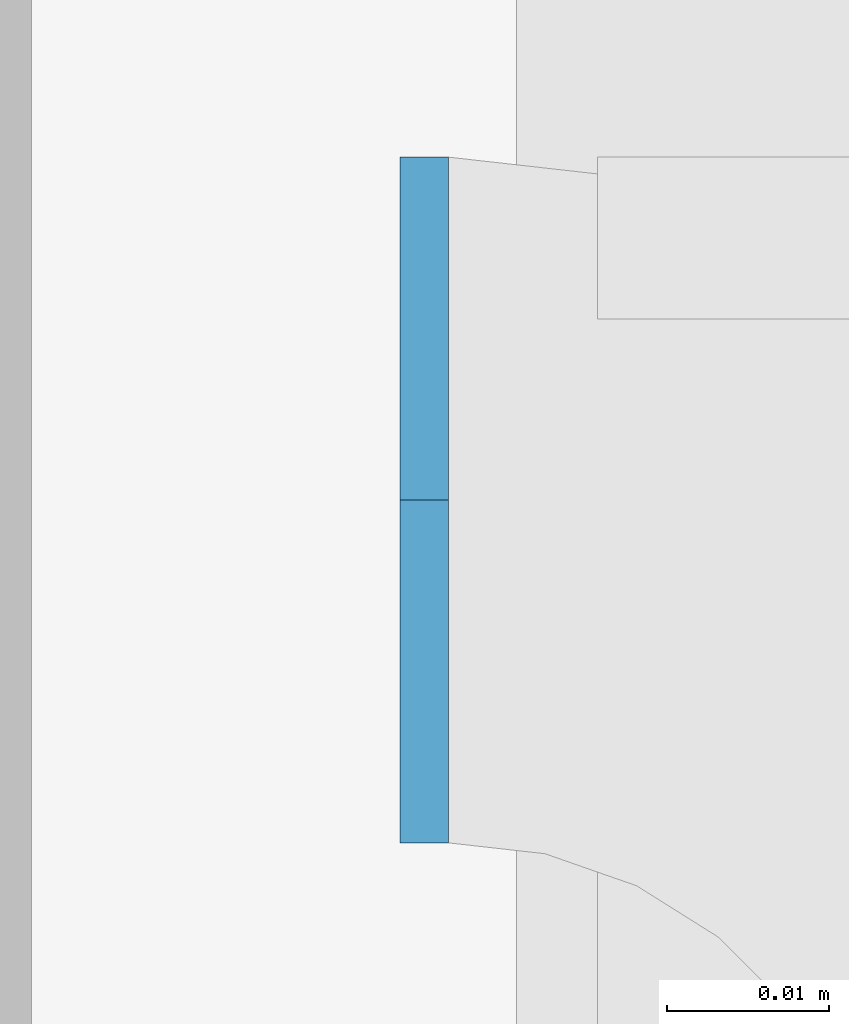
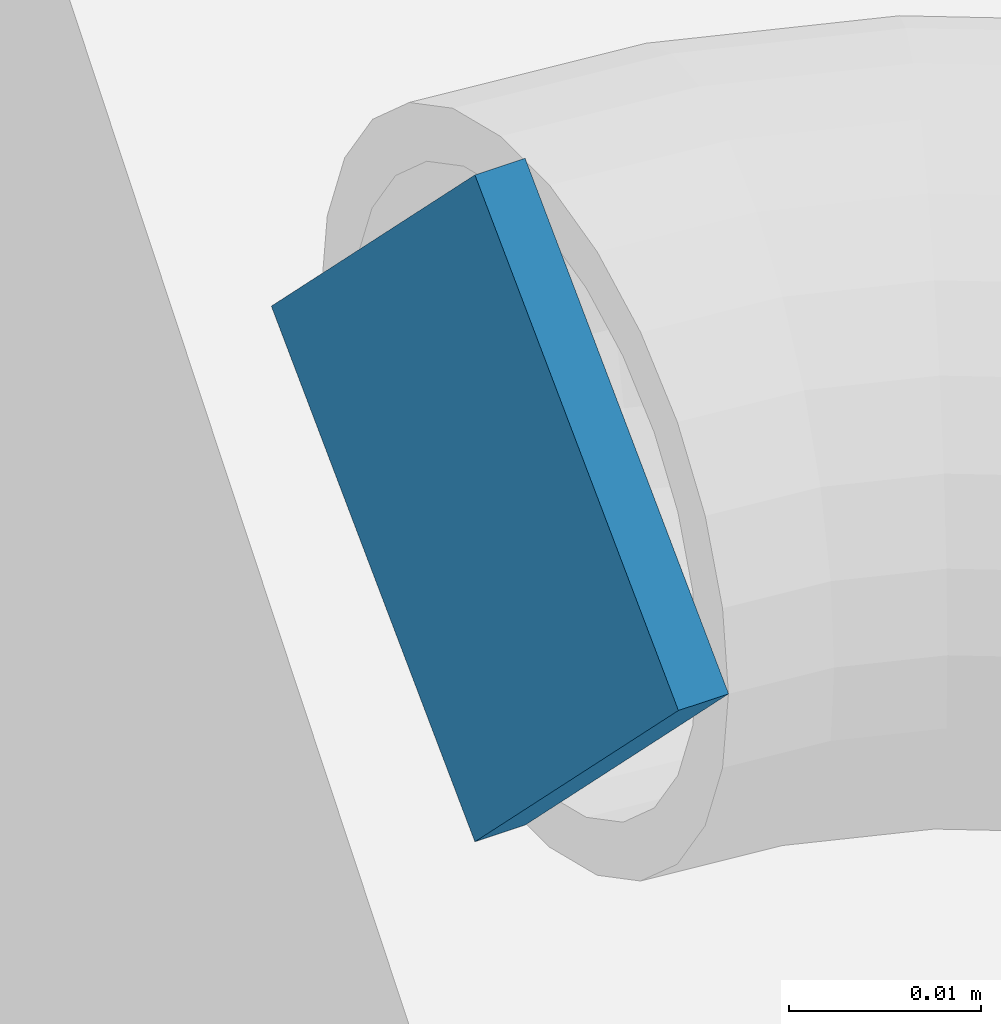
# One storey, part 221 of 825: 1 plate, 4 openings.
"""IFC2X3 building model written with IfcOpenShell, lengths in millimetres."""

from ifc_helpers import new_model, entity, si_unit, converted_unit, point, frame, frame_2d, origin, origin_with_axes, place, context, project, spatial, polyline, circle_curve, line_curve, trimmed, segment, composite_curve, outline, extrude, material, layer, layer_set, element, save


model = new_model("IFC2X3")

# Units and contexts
model_context = context("Model", 3, precision=1e-09, world=origin_with_axes())
ifc_project = project(units=[si_unit("LENGTHUNIT", "METRE", prefix="MILLI"), si_unit("AREAUNIT", "SQUARE_METRE"), si_unit("VOLUMEUNIT", "CUBIC_METRE"), converted_unit("PLANEANGLEUNIT", "DEGREE", entity("IfcPlaneAngleMeasure", 0.01745329), si_unit("PLANEANGLEUNIT", "RADIAN"), dimensions=[0, 0, 0, 0, 0, 0, 0])], contexts=[model_context])

# Site, building, storey
site_placement = place(None, origin_with_axes())
site = spatial("IfcSite", under=ifc_project, at=site_placement, Name="Cnopf'sche Kinderklinik", CompositionType="ELEMENT")
building_placement = place(site_placement, origin_with_axes())
building = spatial("IfcBuilding", under=site, at=building_placement, Name="Struktur 1", CompositionType="ELEMENT")
storey_placement = place(building_placement, origin_with_axes())
storey = spatial("IfcBuildingStorey", under=building, at=storey_placement, Name="Default Storey", CompositionType="ELEMENT", Elevation=0.0)

# Plate, openings
ifc_material = material(Name="S235JR")
ifc_layer = layer(ifc_material, 3.0)
ifc_layer_set = layer_set([ifc_layer], Name="S235JR")
plate_placement = place(None, frame((3232.513402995, 5783.18329849, 4987.000000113), z_axis=(-1.0, 0.0, 0.0), x_axis=(0.0, 0.0, 1.0)))
plate = element("IfcPlate", 1, at=plate_placement, inside=storey, material=ifc_layer_set, Name="-", ObjectType="-", context=model_context, shape_type="SweptSolid", body=[
    extrude(outline(polyline([(21.2, 0.0), (21.2, 42.4), (-21.2, 42.4), (-21.2, 0.0), (21.2, 0.0)])), origin_with_axes(), (0.0, 0.0, 1.0), 3.0),
])
opening_1_placement = place(plate_placement, frame((0.0, 0.0, -0.01), z_axis=(0.0, 0.0, 1.0), x_axis=(1.0, 0.0, 0.0)))
element("IfcOpeningElement", 2, at=opening_1_placement, cuts=plate, ObjectType="Opening", context=model_context, shape_type="SweptSolid", body=[
    extrude(outline(composite_curve([segment(trimmed(line_curve((21.2, 0.0), (0.0, 1.0), 21.2), [point((21.2, 0.0))], [point((21.2, 21.2))], True, "CARTESIAN"), True, "CONTINUOUS"), segment(trimmed(circle_curve(frame_2d((0.0, 21.2), x_axis=(-1.0, 0.0)), 21.2), [point((21.2, 21.2))], [point((0.0, 0.0))], False, "CARTESIAN"), True, "CONTINUOUS"), segment(trimmed(line_curve((0.0, 0.0), (1.0, 0.0), 21.2), [point((0.0, 0.0))], [point((21.2, 0.0))], True, "CARTESIAN"), True, "CONTINUOUS")], self_intersect=False)), origin(), (0.0, 0.0, 1.0), 3.02),
])
opening_2_placement = place(plate_placement, frame((0.0, 0.0, -0.01), z_axis=(0.0, 0.0, 1.0), x_axis=(1.0, 0.0, 0.0)))
element("IfcOpeningElement", 3, at=opening_2_placement, cuts=plate, ObjectType="Opening", context=model_context, shape_type="SweptSolid", body=[
    extrude(outline(composite_curve([segment(trimmed(line_curve((21.2, 42.4), (-1.0, 0.0), 21.2), [point((21.2, 42.4))], [point((0.0, 42.4))], True, "CARTESIAN"), True, "CONTINUOUS"), segment(trimmed(circle_curve(frame_2d((0.0, 21.2), x_axis=(-1.0, 0.0)), 21.2), [point((0.0, 42.4))], [point((21.2, 21.2))], False, "CARTESIAN"), True, "CONTINUOUS"), segment(trimmed(line_curve((21.2, 21.2), (0.0, 1.0), 21.2), [point((21.2, 21.2))], [point((21.2, 42.4))], True, "CARTESIAN"), True, "CONTINUOUS")], self_intersect=False)), origin(), (0.0, 0.0, 1.0), 3.02),
])
opening_3_placement = place(plate_placement, frame((0.0, 0.0, -0.01), z_axis=(0.0, 0.0, 1.0), x_axis=(1.0, 0.0, 0.0)))
element("IfcOpeningElement", 4, at=opening_3_placement, cuts=plate, ObjectType="Opening", context=model_context, shape_type="SweptSolid", body=[
    extrude(outline(composite_curve([segment(trimmed(line_curve((-21.2, 42.4), (0.0, -1.0), 21.2), [point((-21.2, 42.4))], [point((-21.2, 21.2))], True, "CARTESIAN"), True, "CONTINUOUS"), segment(trimmed(circle_curve(frame_2d((0.0, 21.2), x_axis=(-1.0, 0.0)), 21.2), [point((-21.2, 21.2))], [point((0.0, 42.4))], False, "CARTESIAN"), True, "CONTINUOUS"), segment(trimmed(line_curve((0.0, 42.4), (-1.0, 0.0), 21.2), [point((0.0, 42.4))], [point((-21.2, 42.4))], True, "CARTESIAN"), True, "CONTINUOUS")], self_intersect=False)), origin(), (0.0, 0.0, 1.0), 3.02),
])
opening_4_placement = place(plate_placement, frame((0.0, 0.0, -0.01), z_axis=(0.0, 0.0, 1.0), x_axis=(1.0, 0.0, 0.0)))
element("IfcOpeningElement", 5, at=opening_4_placement, cuts=plate, ObjectType="Opening", context=model_context, shape_type="SweptSolid", body=[
    extrude(outline(composite_curve([segment(trimmed(line_curve((-21.2, 0.0), (1.0, 0.0), 21.2), [point((-21.2, 0.0))], [point((0.0, 0.0))], True, "CARTESIAN"), True, "CONTINUOUS"), segment(trimmed(circle_curve(frame_2d((0.0, 21.2), x_axis=(-1.0, 0.0)), 21.2), [point((0.0, 0.0))], [point((-21.2, 21.2))], False, "CARTESIAN"), True, "CONTINUOUS"), segment(trimmed(line_curve((-21.2, 21.2), (0.0, -1.0), 21.2), [point((-21.2, 21.2))], [point((-21.2, 0.0))], True, "CARTESIAN"), True, "CONTINUOUS")], self_intersect=False)), origin(), (0.0, 0.0, 1.0), 3.02),
])

save(model, "model.ifc")
